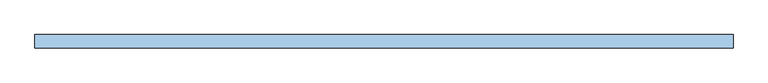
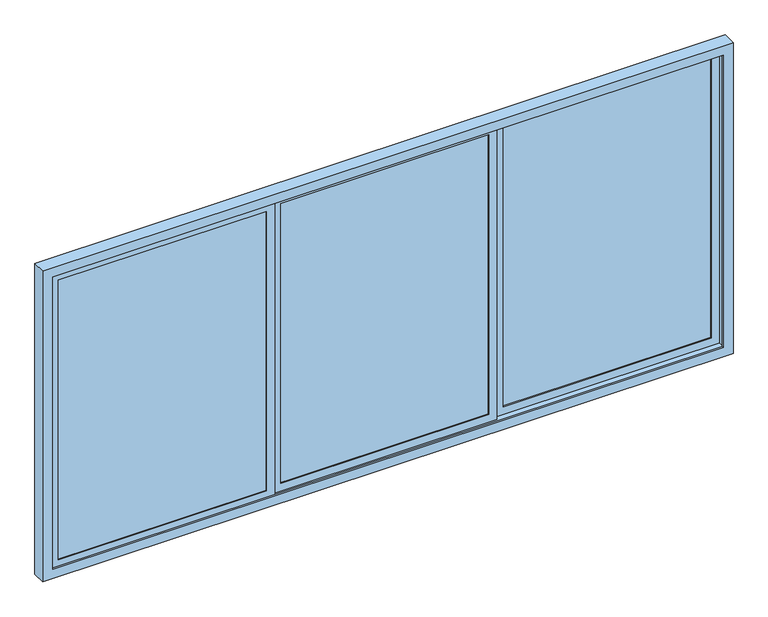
"""IFC4 building model written with IfcOpenShell, lengths in millimetres: window geometry, 3 coulissants FMR : 3 coulissants FMR."""

from ifc_helpers import new_model, si_unit, frame, origin, place, context, project, spatial, polyline, outline, extrude, faceted_brep, source, transform, mapped, element, save


def window_796cc2d3(model_context):
    return source(origin(), model_context, "Body", "SolidModel", [
        extrude(outline(polyline([(727.75, 5.5741902), (727.75, 17.5741902), (1983.25, 17.5741902), (1983.25, 5.5741902), (727.75, 5.5741902)])), frame((0.0, 0.0, 100.0), z_axis=(0.0, 0.0, 1.0), x_axis=(1.0, 0.0, 0.0)), (0.0, 0.0, 1.0), 1785.0),
        extrude(outline(polyline([(1935.0, 2033.25), (1935.0, 677.75), (50.0, 677.75), (50.0, 2033.25), (1935.0, 2033.25)]), holes=[polyline([(1885.0, 727.75), (1885.0, 1983.25), (100.0, 1983.25), (100.0, 727.75), (1885.0, 727.75)])]), frame((0.0, -0.0924764, 0.0), z_axis=(0.0, 1.0, 0.0), x_axis=(0.0, 0.0, 1.0)), (0.0, 0.0, 1.0), 23.3333333),
        extrude(outline(polyline([(627.75, -5.7591431), (627.75, -17.7591431), (-627.75, -17.7591431), (-627.75, -5.7591431), (627.75, -5.7591431)])), frame((0.0, 0.0, 100.0), z_axis=(0.0, 0.0, 1.0), x_axis=(1.0, 0.0, 0.0)), (0.0, 0.0, 1.0), 1785.0),
        extrude(outline(polyline([(50.0, -677.75), (50.0, 677.75), (1935.0, 677.75), (1935.0, -677.75), (50.0, -677.75)]), holes=[polyline([(100.0, 627.75), (100.0, -627.75), (1885.0, -627.75), (1885.0, 627.75), (100.0, 627.75)])]), frame((0.0, -23.4258098, 0.0), z_axis=(0.0, 1.0, 0.0), x_axis=(0.0, 0.0, 1.0)), (0.0, 0.0, 1.0), 23.3333333),
        extrude(outline(polyline([(-1983.25, -41.0924764), (-1983.25, -29.0924764), (-727.75, -29.0924764), (-727.75, -41.0924764), (-1983.25, -41.0924764)])), frame((0.0, 0.0, 100.0), z_axis=(0.0, 0.0, 1.0), x_axis=(1.0, 0.0, 0.0)), (0.0, 0.0, 1.0), 1785.0),
        extrude(outline(polyline([(1935.0, -677.75), (1935.0, -2033.25), (50.0, -2033.25), (50.0, -677.75), (1935.0, -677.75)]), holes=[polyline([(1885.0, -1983.25), (1885.0, -727.75), (100.0, -727.75), (100.0, -1983.25), (1885.0, -1983.25)])]), frame((0.0, -46.7591431, 0.0), z_axis=(0.0, 1.0, 0.0), x_axis=(0.0, 0.0, 1.0)), (0.0, 0.0, 1.0), 23.3333333),
        faceted_brep([(-2023.25, -46.7591431, 1925.0), (2023.25, -46.7591431, 1925.0), (2023.25, -56.7591431, 1925.0), (-2023.25, -56.7591431, 1925.0), (-2033.25, 23.2408569, 1935.0), (2033.25, 23.2408569, 1935.0), (2033.25, -46.7591431, 1935.0), (-2033.25, -46.7591431, 1935.0), (-2083.25, -56.7591431, 1985.0), (2083.25, -56.7591431, 1985.0), (2083.25, 23.2408569, 1985.0), (-2083.25, 23.2408569, 1985.0), (2023.25, -46.7591431, 60.0), (2023.25, -56.7591431, 60.0), (2033.25, 23.2408569, 50.0), (2033.25, -46.7591431, 50.0), (2083.25, -56.7591431, 0.0), (2083.25, 23.2408569, 0.0), (-2023.25, -46.7591431, 60.0), (-2023.25, -56.7591431, 60.0), (-2033.25, 23.2408569, 50.0), (-2033.25, -46.7591431, 50.0), (-2083.25, -56.7591431, 0.0), (-2083.25, 23.2408569, 0.0)], [[[0, 1, 2, 3]], [[4, 5, 6, 7]], [[8, 9, 10, 11]], [[1, 12, 13, 2]], [[5, 14, 15, 6]], [[9, 16, 17, 10]], [[12, 18, 19, 13]], [[14, 20, 21, 15]], [[16, 22, 23, 17]], [[9, 8, 22, 16], [3, 2, 13, 19]], [[18, 0, 3, 19]], [[7, 6, 15, 21], [1, 0, 18, 12]], [[20, 4, 7, 21]], [[11, 10, 17, 23], [5, 4, 20, 14]], [[22, 8, 11, 23]]]),
    ])


if __name__ == "__main__":
    model = new_model("IFC4")
    model_context = context("Model", 3, world=origin())
    ifc_project = project(units=[si_unit("LENGTHUNIT", "METRE", prefix="MILLI")], contexts=[model_context])
    site = spatial("IfcSite", under=ifc_project)
    building = spatial("IfcBuilding", under=site)
    placement = place(None, origin())
    window_shape = window_796cc2d3(model_context)
    element("IfcWindow", 1, ObjectType="3 coulissants FMR : 3 coulissants FMR", at=placement, inside=building, context=model_context, shape_type="MappedRepresentation", body=[
        mapped(window_shape, transform((0.0, 0.0, 0.0), x_axis=(1.0, 0.0, 0.0), y_axis=(0.0, 1.0, 0.0), z_axis=(0.0, 0.0, 1.0))),
    ])
    save(model, "model.ifc")
